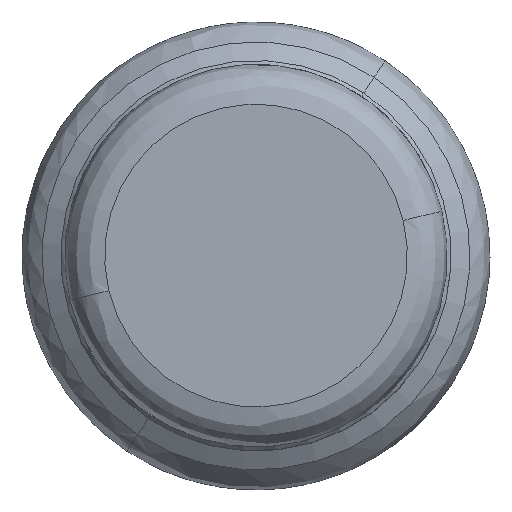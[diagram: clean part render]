
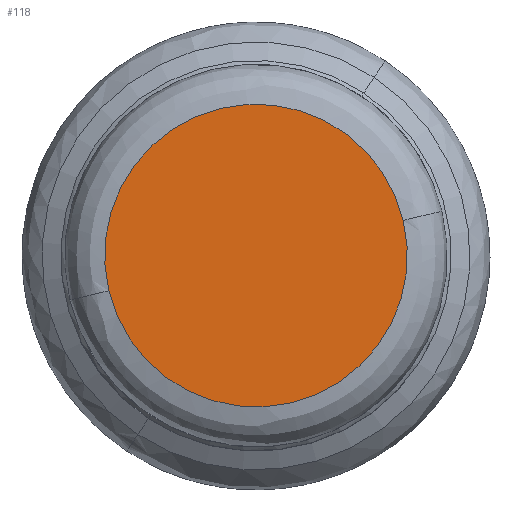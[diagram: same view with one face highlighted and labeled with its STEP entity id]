
A CAD part, top view. The second image highlights one B-rep face of the part: STEP entity #118.
In plain terms, the highlighted free-form (B-spline) face has degree [1, 1] with [2, 2] control points.
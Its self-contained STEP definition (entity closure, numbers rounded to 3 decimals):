
#118=ADVANCED_FACE('',(#313),#314,.T.);
#160=VERTEX_POINT('',#374);
#164=VERTEX_POINT('',#378);
#166=EDGE_CURVE('',#160,#164,#380,.T.);
#186=EDGE_CURVE('',#164,#160,#400,.T.);
#313=FACE_OUTER_BOUND('',#575,.T.);
#314=B_SPLINE_SURFACE_WITH_KNOTS('',1,1,((#576,#577),(#578,#579)),.UNSPECIFIED.,.F.,.F.,.F.,(2,2),(2,2),(0.142,0.858),(0.142,0.858),.UNSPECIFIED.);
#374=CARTESIAN_POINT('',(11.089,2.646,5.));
#378=CARTESIAN_POINT('',(-11.089,-2.646,5.));
#380=CIRCLE('',#913,11.4);
#400=CIRCLE('',#951,11.4);
#575=EDGE_LOOP('',(#1131,#1132));
#576=CARTESIAN_POINT('',(-16.147,0.827,5.));
#577=CARTESIAN_POINT('',(0.827,16.147,5.));
#578=CARTESIAN_POINT('',(-0.827,-16.147,5.));
#579=CARTESIAN_POINT('',(16.147,-0.827,5.));
#913=AXIS2_PLACEMENT_3D('',#1222,#1223,#1224);
#951=AXIS2_PLACEMENT_3D('',#1236,#1237,#1238);
#1131=ORIENTED_EDGE('',*,*,#186,.F.);
#1132=ORIENTED_EDGE('',*,*,#166,.F.);
#1222=CARTESIAN_POINT('',(0.,0.,5.));
#1223=DIRECTION('',(0.,0.,-1.0));
#1224=DIRECTION('',(0.973,0.232,0.));
#1236=CARTESIAN_POINT('',(0.,0.,5.));
#1237=DIRECTION('',(0.,0.,-1.0));
#1238=DIRECTION('',(-0.973,-0.232,0.));
